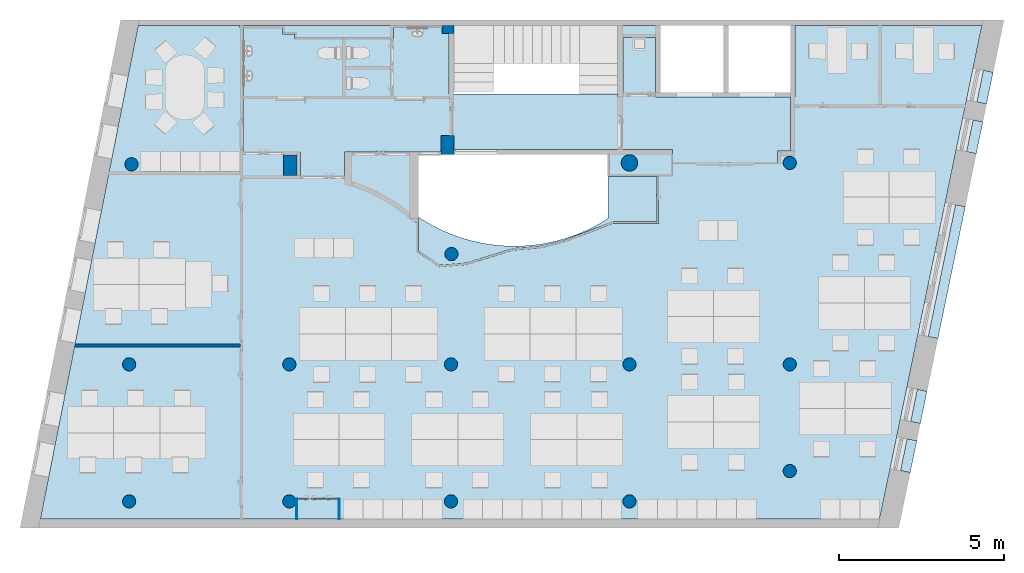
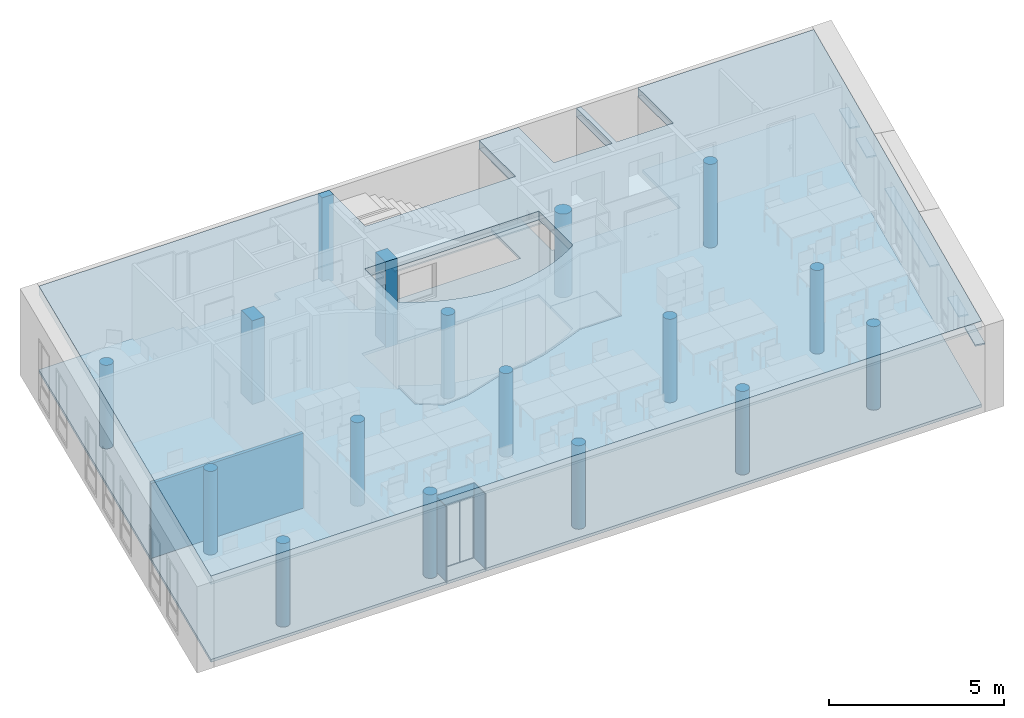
"""IFC4 building model written with IfcOpenShell, lengths in metres."""

from ifc_helpers import new_model, entity, si_unit, converted_unit, derived_unit, frame, frame_2d, origin, origin_with_axes, place, context, subcontext, project, spatial, polyline, rectangle, circle, outline, extrude, faceted_brep, material, layer, layer_set, layer_usage, element, save


model = new_model("IFC4")

# Units and contexts
model_context = context("Model", 3, precision=1e-05, world=origin())
body_context = subcontext(model_context, "Body", "Model", "MODEL_VIEW")
ifc_project = project(units=[si_unit("LENGTHUNIT", "METRE"), si_unit("AREAUNIT", "SQUARE_METRE"), si_unit("VOLUMEUNIT", "CUBIC_METRE"), si_unit("MASSUNIT", "GRAM", prefix="KILO"), converted_unit("PLANEANGLEUNIT", "DEGREE", entity("IfcPlaneAngleMeasure", 0.0174532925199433), si_unit("PLANEANGLEUNIT", "RADIAN"), dimensions=[0, 0, 0, 0, 0, 0, 0]), derived_unit("THERMALTRANSMITTANCEUNIT", [(si_unit("POWERUNIT", "WATT"), 1), (si_unit("THERMODYNAMICTEMPERATUREUNIT", "KELVIN"), -1), (si_unit("LENGTHUNIT", "METRE"), -2)]), derived_unit("VOLUMETRICFLOWRATEUNIT", [(si_unit("LENGTHUNIT", "METRE"), 3), (converted_unit("TIMEUNIT", "hour", entity("IfcTimeMeasure", 3600.0), si_unit("TIMEUNIT", "SECOND"), dimensions=[0, 0, 1, 0, 0, 0, 0]), -1), (si_unit("LENGTHUNIT", "METRE"), -1)])], contexts=[model_context])

# Building, storeys
building_placement = place(None, origin())
building = spatial("IfcBuilding", under=ifc_project, at=building_placement, Name="HABITATGE PLURIFAMILIAR", CompositionType="ELEMENT")
storey_1_placement = place(building_placement, frame((0.0, 0.0, 18.29)))
storey_1 = spatial("IfcBuildingStorey", under=building, at=storey_1_placement, Name="PLANTA CINQUENA", CompositionType="ELEMENT", Elevation=18.29)
storey_2_placement = place(storey_1_placement, frame((0.0, 0.0, 15.28)))
storey_2 = spatial("IfcBuildingStorey", under=storey_1, at=storey_2_placement, Name="NOU", CompositionType="PARTIAL")

# Columns
for number, where, name in (
    (1, (405.636984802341, 17.5994598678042, -15.38), "Pilar P5"),
    (2, (410.533725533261, 17.5994598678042, -15.38), "Pilar P5"),
):
    element("IfcColumn", number, at=place(storey_2_placement, frame(where)), inside=storey_2, Name=name, PredefinedType="COLUMN", context=body_context, shape_type="SweptSolid", body=[
        extrude(circle(Radius=0.200000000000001, at=frame_2d((0.200000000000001, 0.200000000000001), x_axis=(1.0, 0.0))), origin_with_axes(), (0.0, 0.0, 1.0), 3.01),
    ])
column_1_placement = place(storey_2_placement, frame((410.426984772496, 24.1594598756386, -15.38)))
element("IfcColumn", 3, at=column_1_placement, inside=storey_2, Name="Pilar P5", PredefinedType="COLUMN", context=body_context, shape_type="SweptSolid", body=[
    extrude(rectangle(XDim=0.399999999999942, YDim=0.569999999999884, at=frame_2d((0.199999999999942, 0.284999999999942), x_axis=(1.0, 0.0))), origin_with_axes(), (0.0, 0.0, 1.0), 3.01),
])
column_2_placement = place(storey_2_placement, frame((410.456984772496, 27.8194598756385, -15.38)))
element("IfcColumn", 4, at=column_2_placement, inside=storey_2, Name="Pilar P5", PredefinedType="COLUMN", context=body_context, shape_type="SweptSolid", body=[
    extrude(rectangle(XDim=0.369999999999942, YDim=0.248788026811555, at=frame_2d((0.185, 0.124394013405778), x_axis=(1.0, 0.0))), origin_with_axes(), (0.0, 0.0, 1.0), 3.01),
])
column_3_placement = place(storey_2_placement, frame((405.666984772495, 23.5194598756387, -15.38)))
element("IfcColumn", 5, at=column_3_placement, inside=storey_2, Name="Pilar P5", PredefinedType="COLUMN", context=body_context, shape_type="SweptSolid", body=[
    extrude(rectangle(XDim=0.409999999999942, YDim=0.624999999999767, at=frame_2d((0.205, 0.312499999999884), x_axis=(1.0, 0.0))), origin_with_axes(), (0.0, 0.0, 1.0), 3.01),
])
column_4_placement = place(storey_2_placement, frame((420.79198477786, 23.6994598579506, -15.38)))
element("IfcColumn", 6, at=column_4_placement, inside=storey_2, Name="Pilar P5", PredefinedType="COLUMN", context=body_context, shape_type="SweptSolid", body=[
    extrude(circle(Radius=0.200000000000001, at=frame_2d((0.200000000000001, 0.200000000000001), x_axis=(1.0, 0.0))), origin_with_axes(), (0.0, 0.0, 1.0), 3.01),
])
column_5_placement = place(storey_2_placement, frame((415.886984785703, 23.6494598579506, -15.38)))
element("IfcColumn", 7, at=column_5_placement, inside=storey_2, Name="Pilar P5", PredefinedType="COLUMN", context=body_context, shape_type="SweptSolid", body=[
    extrude(circle(Radius=0.25, at=frame_2d((0.25, 0.25), x_axis=(1.0, 0.0))), origin_with_axes(), (0.0, 0.0, 1.0), 3.01),
])
for number, where, name in (
    (8, (410.54698479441, 20.9394598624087, -15.38), "Pilar P5"),
    (9, (400.856984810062, 23.6594598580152, -15.38), "Pilar P5"),
    (10, (415.936984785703, 17.5994598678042, -15.38), "Pilar P5"),
    (11, (420.79198477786, 17.5994598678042, -15.38), "Pilar P5"),
    (12, (420.791984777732, 14.3694598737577, -15.38), "Pilar P5"),
    (13, (415.936984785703, 13.449459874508, -15.38), "Pilar P5"),
    (14, (410.533725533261, 13.449459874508, -15.38), "Pilar P5"),
    (15, (400.786984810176, 17.5994598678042, -15.38), "Pilar P5"),
    (16, (405.636984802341, 13.449459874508, -15.38), "Pilar P5"),
    (17, (400.786984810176, 13.449459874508, -15.38), "Pilar P5"),
):
    element("IfcColumn", number, at=place(storey_2_placement, frame(where)), inside=storey_2, Name=name, PredefinedType="COLUMN", context=body_context, shape_type="SweptSolid", body=[
        extrude(circle(Radius=0.200000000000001, at=frame_2d((0.200000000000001, 0.200000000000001), x_axis=(1.0, 0.0))), origin_with_axes(), (0.0, 0.0, 1.0), 3.01),
    ])

# Slabs
slab_1_placement = place(storey_2_placement, frame((398.29522871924, 13.1106121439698, -12.67)))
element("IfcSlab", 18, at=slab_1_placement, inside=storey_2, Name="Forjat P5", PredefinedType="FLOOR", context=body_context, shape_type="SweptSolid", body=[
    extrude(outline(polyline([(12.5317560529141, 14.9576357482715), (2.9654415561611, 14.9576357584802), (0.0, 0.0), (25.4182080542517, 0.0), (28.5180203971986, 14.9576357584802), (22.711756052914, 14.9576357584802), (22.711756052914, 12.9288477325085), (20.8417560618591, 12.9288477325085), (20.8417560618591, 14.9576357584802), (20.6917560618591, 14.9576357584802), (20.6917560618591, 12.9288477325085), (18.779463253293, 12.9288477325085), (18.779463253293, 14.9576357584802), (17.4817560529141, 14.9576357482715), (17.4817560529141, 12.8815389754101), (12.5317560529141, 12.878849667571), (12.5317560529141, 14.9576357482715)]), holes=[polyline([(11.451756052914, 11.0488477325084), (17.191756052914, 11.0488477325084), (17.191756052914, 9.1032116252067), (17.1233287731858, 9.05985141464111), (17.0542385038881, 9.01755560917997), (16.9845018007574, 8.97633434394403), (16.9141353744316, 8.93619749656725), (16.8431560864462, 8.89715468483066), (16.7715809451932, 8.85921526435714), (16.6994271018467, 8.82238832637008), (16.6267118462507, 8.78668269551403), (16.5534526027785, 8.75210692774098), (16.479666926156, 8.71866930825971), (16.4053724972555, 8.68637784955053), (16.3305871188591, 8.65524028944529), (16.2553287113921, 8.62526408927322), (16.1796153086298, 8.59645643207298), (16.1034650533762, 8.56882422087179), (16.0268961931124, 8.54237407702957), (15.949927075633, 8.51711233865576), (15.8725761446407, 8.49304505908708), (15.7948619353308, 8.47017800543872), (15.7168030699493, 8.44851665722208), (15.6384182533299, 8.42806620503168), (15.5597262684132, 8.40883154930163), (15.4807459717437, 8.39081729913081), (15.4014962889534, 8.374027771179), (15.3219962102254, 8.35846698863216), (15.2422647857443, 8.34413868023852), (15.1623211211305, 8.33104627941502), (15.0821843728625, 8.31919292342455), (15.0018737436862, 8.30858145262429), (14.9214084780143, 8.29921440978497), (14.8408078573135, 8.29109403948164), (14.7600911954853, 8.28422228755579), (14.6792778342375, 8.27860080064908), (14.5983871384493, 8.27423092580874), (14.5174384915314, 8.27111371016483), (14.4364512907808, 8.26924990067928), (14.3554449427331, 8.26863994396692), (14.274438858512, 8.26928398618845), (14.1934524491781, 8.27118187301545), (14.1125051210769, 8.27433314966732), (14.0316162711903, 8.27873706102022), (13.9508052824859, 8.28439255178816), (13.8700915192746, 8.29129826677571), (13.7894943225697, 8.29945255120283), (13.709033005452, 8.30885345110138), (13.6287268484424, 8.31949871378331), (13.5485950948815, 8.33138578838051), (13.4686569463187, 8.34451182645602), (13.3889315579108, 8.35887368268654), (13.3094380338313, 8.3744679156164), (13.2301954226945, 8.39129078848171), (13.151222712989, 8.40933827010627), (13.0725388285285, 8.42860603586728), (12.994162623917, 8.44908946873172), (12.9161128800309, 8.47078366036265), (12.8384082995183, 8.49368341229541), (12.7610675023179, 8.51778323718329), (12.6841090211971, 8.54307736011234), (12.6075512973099, 8.56955971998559), (12.5314126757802, 8.59722397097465), (12.4557114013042, 8.62606348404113), (12.3804656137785, 8.65607134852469), (12.3056933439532, 8.68724037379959), (12.2314125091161, 8.71956309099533), (12.1576409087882, 8.75303175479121), (12.0843962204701, 8.78763834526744), (12.0116959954, 8.82337456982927), (11.9395576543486, 8.86023186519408), (11.8679984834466, 8.89820139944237), (11.7970356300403, 8.93727407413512), (11.7266860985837, 8.97744052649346), (11.656966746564, 9.01869113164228), (11.5878942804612, 9.06101600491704), (11.5194852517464, 9.1044050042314), (11.4517560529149, 9.14884773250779), (11.451756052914, 11.0488477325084)])]), origin_with_axes(), (0.0, 0.0, 1.0), 0.3),
])
slab_2_placement = place(storey_2_placement, frame((404.436984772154, 23.5044598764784, -12.97)))
element("IfcSlab", 19, at=slab_2_placement, inside=storey_2, Name="Fals sostre P5", PredefinedType="FLOOR", context=body_context, shape_type="SweptSolid", body=[
    extrude(outline(polyline([(0.0, 4.47499999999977), (0.0, 0.724999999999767), (1.74, 0.724999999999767), (1.74, 0.0), (3.06904787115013, 0.0), (3.07, 0.724999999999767), (5.98999999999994, 0.724999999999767), (5.98999999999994, 1.22499999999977), (6.38999999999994, 1.22499999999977), (6.38999999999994, 0.804999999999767), (13.0099999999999, 0.804999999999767), (13.0099999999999, 0.395), (16.1799999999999, 0.395), (16.1799999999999, 0.755), (16.5699999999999, 0.755), (16.5699999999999, 2.38499999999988), (12.4877072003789, 2.38567575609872), (12.4877072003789, 4.195), (11.51, 4.195), (11.51, 2.38583759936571), (11.3396889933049, 2.38586579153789), (11.3396889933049, 2.47586579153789), (6.24, 2.48207837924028), (6.24, 4.31499999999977), (6.01999999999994, 4.31499999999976), (6.01999999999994, 4.49499999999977), (4.55, 4.49499999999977), (4.55, 4.14499999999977), (1.56187124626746, 4.14499999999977), (1.56, 4.30499999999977), (1.2, 4.30499999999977), (1.2, 4.47499999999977), (0.0, 4.47499999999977)])), origin_with_axes(), (0.0, 0.0, 1.0), 0.05),
])
slab_3_placement = place(storey_2_placement, frame((425.185799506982, 18.5814834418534, -14.38)))
element("IfcSlab", 20, at=slab_3_placement, inside=storey_2, Name="Acabats de façanes P5", PredefinedType="FLOOR", context=body_context, shape_type="SweptSolid", body=[
    extrude(outline(polyline([(-0.319926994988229, -2.43321672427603), (0.507044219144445, 1.5613076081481), (0.215837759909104, 1.62165707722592), (0.211123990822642, 1.62257159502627), (-0.61407897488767, -2.37231955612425), (-0.319926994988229, -2.43321672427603)])), frame((0.61407897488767, 2.43321672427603, 0.0), z_axis=(0.0, 0.0, 1.0), x_axis=(1.0, 0.0, 0.0)), (0.0, 0.0, 1.0), 0.05),
])
slab_4_placement = place(storey_2_placement, frame((424.652766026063, 16.0067684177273, -14.38)))
element("IfcSlab", 21, at=slab_4_placement, inside=storey_2, Name="Acabats de façanes P5", PredefinedType="FLOOR", context=body_context, shape_type="Brep", body=[
    faceted_brep([(0.496584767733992, 0.977812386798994, 0.0), (0.202006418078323, 1.03879782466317, 0.0), (0.0, 0.0608971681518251, 0.0), (0.294151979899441, 0.0, 0.0), (0.202006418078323, 1.03879782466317, 0.05), (0.496584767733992, 0.977812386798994, 0.05), (0.294151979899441, 0.0, 0.05), (0.0, 0.0608971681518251, 0.05)], [[[0, 1, 2, 3]], [[4, 5, 6, 7]], [[1, 0, 5, 4]], [[2, 1, 4, 7]], [[3, 2, 7, 6]], [[0, 3, 6, 5]]], orient=[[False], [False], [False], [False], [False], [False]]),
])
slab_5_placement = place(storey_2_placement, frame((424.345638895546, 14.5232502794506, -14.38)))
element("IfcSlab", 22, at=slab_5_placement, inside=storey_2, Name="Acabats de façanes P5", PredefinedType="FLOOR", context=body_context, shape_type="Brep", body=[
    faceted_brep([(0.493539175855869, 0.963101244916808, 0.0), (0.198960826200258, 1.02408668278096, 0.0), (0.0, 0.060897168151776, 0.0), (0.294151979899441, 0.0, 0.0), (0.198960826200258, 1.02408668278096, 0.05), (0.493539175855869, 0.963101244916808, 0.05), (0.294151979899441, 0.0, 0.05), (0.0, 0.060897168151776, 0.05)], [[[0, 1, 2, 3]], [[4, 5, 6, 7]], [[1, 0, 5, 4]], [[2, 1, 4, 7]], [[3, 2, 7, 6]], [[0, 3, 6, 5]]], orient=[[False], [False], [False], [False], [False], [False]]),
])
slab_6_placement = place(storey_2_placement, frame((426.656039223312, 25.6831917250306, -14.38)))
element("IfcSlab", 23, at=slab_6_placement, inside=storey_2, Name="Acabats de façanes P5", PredefinedType="FLOOR", context=body_context, shape_type="Brep", body=[
    faceted_brep([(0.493539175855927, 0.963101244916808, 0.0), (0.198960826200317, 1.02408668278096, 0.0), (0.0, 0.060897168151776, 0.0), (0.2941519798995, 0.0, 0.0), (0.198960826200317, 1.02408668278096, 0.05), (0.493539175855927, 0.963101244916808, 0.05), (0.2941519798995, 0.0, 0.05), (0.0, 0.060897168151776, 0.05)], [[[0, 1, 2, 3]], [[4, 5, 6, 7]], [[1, 0, 5, 4]], [[2, 1, 4, 7]], [[3, 2, 7, 6]], [[0, 3, 6, 5]]], orient=[[False], [False], [False], [False], [False], [False]]),
])
slab_7_placement = place(storey_2_placement, frame((426.344693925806, 24.1792985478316, -14.38)))
element("IfcSlab", 24, at=slab_7_placement, inside=storey_2, Name="Acabats de façanes P5", PredefinedType="FLOOR", context=body_context, shape_type="Brep", body=[
    faceted_brep([(0.493539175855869, 0.963101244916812, 0.0), (0.198960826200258, 1.02408668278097, 0.0), (0.0, 0.0608971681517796, 0.0), (0.294151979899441, 0.0, 0.0), (0.198960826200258, 1.02408668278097, 0.05), (0.493539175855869, 0.963101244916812, 0.05), (0.294151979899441, 0.0, 0.05), (0.0, 0.0608971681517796, 0.05)], [[[0, 1, 2, 3]], [[4, 5, 6, 7]], [[1, 0, 5, 4]], [[2, 1, 4, 7]], [[3, 2, 7, 6]], [[0, 3, 6, 5]]], orient=[[False], [False], [False], [False], [False], [False]]),
])
slab_8_placement = place(storey_2_placement, frame((398.29522871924, 13.1106121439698, -15.38)))
element("IfcSlab", 25, at=slab_8_placement, inside=storey_2, Name="Paviment P5", PredefinedType="FLOOR", context=body_context, shape_type="SweptSolid", body=[
    extrude(outline(polyline([(18.629463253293, 12.7788477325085), (18.629463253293, 14.5888477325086), (17.6517560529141, 14.5888477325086), (17.6517560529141, 12.8815352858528), (12.3817560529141, 12.8788496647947), (12.3817560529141, 14.7088477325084), (12.161756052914, 14.7088477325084), (12.161756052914, 14.8888477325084), (10.6917560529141, 14.8888477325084), (10.6917560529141, 14.5388477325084), (7.70175605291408, 14.5388477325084), (7.70175605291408, 14.6988477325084), (7.34175605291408, 14.6988477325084), (7.34175605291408, 14.8688477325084), (6.04175605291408, 14.8688477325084), (6.04175605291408, 14.957635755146), (2.96349700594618, 14.9576357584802), (0.0, 0.0), (25.4182080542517, 0.0), (28.5180203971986, 14.9576357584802), (22.8617560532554, 14.9576357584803), (22.8617560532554, 12.7788477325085), (18.629463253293, 12.7788477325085)]), holes=[polyline([(11.4034174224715, 8.9990136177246), (11.3542154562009, 8.9990136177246), (11.3542154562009, 11.0368825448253), (12.1357557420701, 11.0368825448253), (12.1357557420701, 11.0488477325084), (17.1943932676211, 11.0518825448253), (17.1943932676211, 10.3830417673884), (18.7225674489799, 10.3830417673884), (18.7225674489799, 8.96069682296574), (17.3510205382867, 8.96069682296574), (15.8778775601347, 8.39345211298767), (15.1116738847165, 8.21142582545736), (14.324304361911, 8.15216145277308), (12.9104257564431, 7.71191182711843), (12.0934240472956, 7.64418111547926), (11.4034174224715, 8.10113914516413), (11.4034174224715, 8.9990136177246)])]), origin_with_axes(), (0.0, 0.0, 1.0), 0.1),
])
slab_9_placement = place(storey_2_placement, frame((409.746984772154, 20.8007729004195, -15.38)))
element("IfcSlab", 26, at=slab_9_placement, inside=storey_2, Name="Paviment P5", PredefinedType="FLOOR", context=body_context, shape_type="SweptSolid", body=[
    extrude(outline(polyline([(5.74, 2.68868697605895), (5.74, 1.41305086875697), (5.43322581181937, 1.22982725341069), (5.11466340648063, 1.06796530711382), (4.78579800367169, 0.928219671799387), (4.44816285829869, 0.811241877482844), (4.10333211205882, 0.717577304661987), (3.75291345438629, 0.647662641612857), (3.39854062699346, 0.601823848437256), (3.04186580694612, 0.580274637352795), (2.68455190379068, 0.583115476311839), (2.32826480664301, 0.610333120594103), (1.97466561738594, 0.661800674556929), (1.62540290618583, 0.737278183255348), (1.28210502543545, 0.836413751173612), (0.946372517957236, 0.958745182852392), (0.61977065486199, 1.1037021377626), (0.30382213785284, 1.27060878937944), (0.0, 1.45868697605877), (0.0, 0.435594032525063), (0.652597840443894, 0.0), (1.44673818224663, 0.0680408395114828), (2.86004820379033, 0.508111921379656), (3.64957753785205, 0.568249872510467), (4.41148500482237, 0.746538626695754), (5.14324609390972, 1.0353208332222), (5.88211983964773, 1.31538096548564), (5.89066652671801, 1.31868697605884), (7.22, 1.31868697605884), (7.22000000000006, 2.68868697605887), (5.74, 2.68868697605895)]), holes=[polyline([(0.9, 0.165481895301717), (0.897611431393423, 0.167154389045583), (0.884992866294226, 0.174439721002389), (0.873831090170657, 0.183805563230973), (0.871442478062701, 0.185478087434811), (0.869380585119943, 0.187539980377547), (0.85821884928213, 0.196905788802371), (0.848853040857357, 0.208067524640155), (0.846791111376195, 0.210129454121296), (0.84511855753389, 0.212518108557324), (0.835752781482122, 0.223679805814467), (0.828467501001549, 0.236298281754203), (0.826794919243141, 0.238686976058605), (0.82556254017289, 0.241329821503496), (0.818277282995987, 0.253948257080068), (0.81329387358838, 0.267640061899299), (0.812061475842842, 0.270282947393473), (0.811306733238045, 0.273099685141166), (0.806323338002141, 0.286791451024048), (0.80379320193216, 0.301140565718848), (0.803038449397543, 0.303957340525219), (0.802784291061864, 0.306862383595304), (0.800254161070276, 0.321211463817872), (0.800254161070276, 0.356162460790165), (0.802784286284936, 0.370511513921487), (0.803038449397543, 0.373416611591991), (0.803793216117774, 0.376233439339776), (0.806323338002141, 0.390582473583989), (0.811306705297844, 0.404274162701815), (0.812061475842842, 0.407091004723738), (0.813293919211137, 0.409733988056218), (0.818277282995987, 0.423425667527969), (0.825562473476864, 0.436043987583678), (0.826794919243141, 0.438686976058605), (0.828467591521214, 0.441075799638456), (0.835752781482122, 0.45369411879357), (0.845118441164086, 0.46485567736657), (0.846791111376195, 0.467244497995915), (0.848853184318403, 0.469306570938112), (0.85821884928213, 0.480468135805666), (0.869380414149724, 0.489833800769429), (0.871442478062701, 0.491895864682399), (0.873831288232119, 0.493568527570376), (0.884992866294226, 0.502934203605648), (0.897611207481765, 0.510219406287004), (0.9, 0.511892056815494), (0.902642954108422, 0.513124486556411), (0.915261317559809, 0.520409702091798), (0.928953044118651, 0.525393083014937), (0.931595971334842, 0.526625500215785), (0.934412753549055, 0.52738025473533), (0.948104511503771, 0.532363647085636), (0.962453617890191, 0.534893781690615), (0.965270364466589, 0.535648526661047), (0.96817537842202, 0.535902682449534), (0.982524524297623, 0.53843282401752), (1.01747552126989, 0.53843282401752), (1.03182471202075, 0.535902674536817), (1.03472963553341, 0.535648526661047), (1.03754629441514, 0.534893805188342), (1.05189553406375, 0.532363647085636), (1.06558741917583, 0.527380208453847), (1.06840402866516, 0.526625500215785), (1.07104679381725, 0.525393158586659), (1.08473872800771, 0.520409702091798), (1.09735728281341, 0.513124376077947), (1.1, 0.511892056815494), (1.10238857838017, 0.510219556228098), (1.11500717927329, 0.502934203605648), (1.12616898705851, 0.493568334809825), (1.1285575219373, 0.491895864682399), (1.13061934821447, 0.489834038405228), (1.14178119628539, 0.480468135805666), (1.15114709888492, 0.469306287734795), (1.15320888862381, 0.467244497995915), (1.1548813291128, 0.464856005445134), (1.1642472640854, 0.45369411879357), (1.17153266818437, 0.441075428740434), (1.17320508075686, 0.438686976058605), (1.17443733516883, 0.43604439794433), (1.18172276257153, 0.423425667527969), (1.18670628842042, 0.409733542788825), (1.18793852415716, 0.407091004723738), (1.18869316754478, 0.404274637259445), (1.19367670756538, 0.390582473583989), (1.19620691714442, 0.376232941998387), (1.19696155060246, 0.373416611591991), (1.19721566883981, 0.370512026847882), (1.19974588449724, 0.356162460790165), (1.19974588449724, 0.321211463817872), (1.19721566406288, 0.306861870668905), (1.19696155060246, 0.303957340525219), (1.19620693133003, 0.301141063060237), (1.19367670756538, 0.286791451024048), (1.18869313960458, 0.273099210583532), (1.18793852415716, 0.270282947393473), (1.18670633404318, 0.267640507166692), (1.18172276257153, 0.253948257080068), (1.1744372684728, 0.241329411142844), (1.17320508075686, 0.238686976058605), (1.17153275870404, 0.236298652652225), (1.1642472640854, 0.223679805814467), (1.154881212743, 0.212517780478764), (1.15320888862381, 0.210129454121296), (1.15114724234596, 0.208067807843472), (1.14178119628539, 0.196905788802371), (1.13061917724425, 0.187539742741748), (1.1285575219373, 0.185478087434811), (1.12616918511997, 0.183805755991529), (1.11500717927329, 0.174439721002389), (1.10238835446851, 0.16715423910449), (1.1, 0.165481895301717), (1.0973575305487, 0.164249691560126), (1.08473872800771, 0.156964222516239), (1.07104652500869, 0.151980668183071), (1.06840402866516, 0.150748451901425), (1.0655877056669, 0.149993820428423), (1.05189553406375, 0.1450102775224), (1.03754599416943, 0.142480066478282), (1.03472963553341, 0.141725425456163), (1.03182502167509, 0.141471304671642), (1.01747552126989, 0.138941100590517), (0.982524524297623, 0.138941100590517), (0.968175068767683, 0.141471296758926), (0.965270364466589, 0.141725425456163), (0.962453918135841, 0.142480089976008), (0.948104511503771, 0.1450102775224), (0.934412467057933, 0.149993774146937), (0.931595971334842, 0.150748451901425), (0.928953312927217, 0.151980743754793), (0.915261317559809, 0.156964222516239), (0.902642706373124, 0.164249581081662), (0.9, 0.165481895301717)])]), origin_with_axes(), (0.0, 0.0, 1.0), 0.1),
])

# Wall, openings
ifc_material_1 = material()
ifc_layer_1 = layer(ifc_material_1, 0.03)
ifc_layer_set_1 = layer_set([ifc_layer_1])
ifc_layer_usage_1 = layer_usage(ifc_layer_set_1, "AXIS2", "POSITIVE", 0.0)
wall_1_placement = place(storey_2_placement, frame((407.361610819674, 13.7631365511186, -15.33), z_axis=(0.0, 0.0, 1.0), x_axis=(-1.0, 0.0, 0.0)))
wall_1 = element("IfcWall", 27, at=wall_1_placement, inside=storey_2, material=ifc_layer_usage_1, Name="Evans PA", context=body_context, shape_type="SweptSolid", body=[
    extrude(rectangle(XDim=1.31229787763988, YDim=0.03, at=frame_2d((0.656148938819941, 0.015), x_axis=(1.0, 0.0))), origin_with_axes(), (0.0, 0.0, 1.0), 2.66),
])
opening_1_placement = place(wall_1_placement, frame((0.487834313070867, 0.0, 0.05), z_axis=(0.0, 1.0, 0.0), x_axis=(0.0, 0.0, 1.0)))
element("IfcOpeningElement", 28, at=opening_1_placement, cuts=wall_1, Name="Vano de puerta PA", ObjectType="Opening", context=body_context, shape_type="SweptSolid", body=[
    extrude(outline(polyline([(2.15, 0.822674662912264), (2.15, 0.0), (0.0, 0.0), (0.0, 0.822674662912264), (2.15, 0.822674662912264)])), origin_with_axes(), (0.0, 0.0, 1.0), 0.03),
])
opening_2_placement = place(wall_1_placement, frame((0.0452878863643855, 0.0, 0.05), z_axis=(0.0, 1.0, 0.0), x_axis=(0.0, 0.0, 1.0)))
element("IfcOpeningElement", 29, at=opening_2_placement, cuts=wall_1, Name="Vano de puerta PA", ObjectType="Opening", context=body_context, shape_type="SweptSolid", body=[
    extrude(outline(polyline([(2.15, 0.441930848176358), (2.15, 0.0), (0.0, 0.0), (0.0, 0.441930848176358), (2.15, 0.441930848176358)])), origin_with_axes(), (0.0, 0.0, 1.0), 0.03),
])

# Walls
ifc_material_2 = material()
ifc_layer_2 = layer(ifc_material_2, 0.025)
ifc_layer_set_2 = layer_set([ifc_layer_2])
ifc_layer_usage_2 = layer_usage(ifc_layer_set_2, "AXIS2", "POSITIVE", 0.0)
wall_2_placement = place(storey_2_placement, frame((406.074312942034, 13.1106121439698, -15.33), z_axis=(0.0, 0.0, 1.0), x_axis=(0.0, 1.0, 0.0)))
element("IfcWall", 30, at=wall_2_placement, inside=storey_2, material=ifc_layer_usage_2, Name="Evans PA", context=body_context, shape_type="SweptSolid", body=[
    extrude(rectangle(XDim=0.622524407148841, YDim=0.025, at=frame_2d((0.311262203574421, 0.0125), x_axis=(1.0, 0.0))), origin_with_axes(), (0.0, 0.0, 1.0), 2.66),
])
ifc_material_3 = material()
ifc_layer_3 = layer(ifc_material_3, 0.025)
ifc_layer_set_3 = layer_set([ifc_layer_3])
ifc_layer_usage_3 = layer_usage(ifc_layer_set_3, "AXIS2", "POSITIVE", 0.0)
wall_3_placement = place(storey_2_placement, frame((407.361610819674, 13.1106121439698, -15.33), z_axis=(0.0, 0.0, 1.0), x_axis=(0.0, 1.0, 0.0)))
element("IfcWall", 31, at=wall_3_placement, inside=storey_2, material=ifc_layer_usage_3, Name="Evans PA", context=body_context, shape_type="SweptSolid", body=[
    extrude(rectangle(XDim=0.622524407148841, YDim=0.025, at=frame_2d((0.311262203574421, 0.0125), x_axis=(1.0, 0.0))), origin_with_axes(), (0.0, 0.0, 1.0), 2.66),
])
ifc_material_4 = material()
ifc_layer_4 = layer(ifc_material_4, 0.1)
ifc_layer_set_4 = layer_set([ifc_layer_4])
ifc_layer_usage_4 = layer_usage(ifc_layer_set_4, "AXIS2", "POSITIVE", 0.0)
wall_4_placement = place(storey_2_placement, frame((399.327640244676, 18.3215067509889, -15.38)))
element("IfcWall", 32, at=wall_4_placement, inside=storey_2, material=ifc_layer_usage_4, Name="Mampara P5", context=body_context, shape_type="SweptSolid", body=[
    extrude(outline(polyline([(0.0, 0.0), (5.02489241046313, 0.0), (5.02489241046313, 0.1), (0.0198126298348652, 0.1), (0.0, 0.0)])), origin_with_axes(), (0.0, 0.0, 1.0), 2.71),
])

save(model, "model.ifc")
